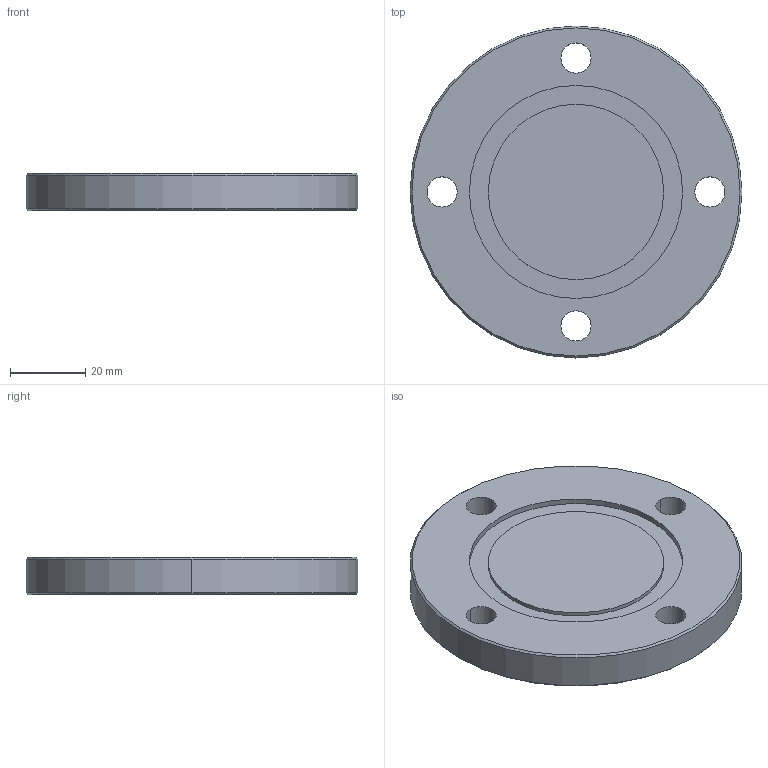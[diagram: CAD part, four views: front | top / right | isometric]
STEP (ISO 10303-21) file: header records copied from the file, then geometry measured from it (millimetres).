
FILE_DESCRIPTION (( 'STEP AP203' ), '1' );
FILE_NAME ('3D_R712_DN48.3_168071120.STEP', '2024-08-08T11:33:53', ( '' ), ( '' ), 'SwSTEP 2.0', 'SolidWorks 2024', '' );
FILE_SCHEMA (( 'CONFIG_CONTROL_DESIGN' ));
Length unit declared in the file: millimetre
Products named in the file (1): 3D_R712_DN48.3_168071120
Bounding box: 88 x 88 x 10 mm (x, y, z)
Volume: 56679.2 mm3; surface area: 15781.8 mm2
Topology: 1 solids, 1 shells, 22 faces, 50 edges, 32 vertices
Faces by surface type: cylinder 14, cone 4, plane 4
Entity records: 727 total; most frequent: DIRECTION 128, CARTESIAN_POINT 105, ORIENTED_EDGE 100, AXIS2_PLACEMENT_3D 55, EDGE_CURVE 50, VERTEX_POINT 32, EDGE_LOOP 32, CIRCLE 32
